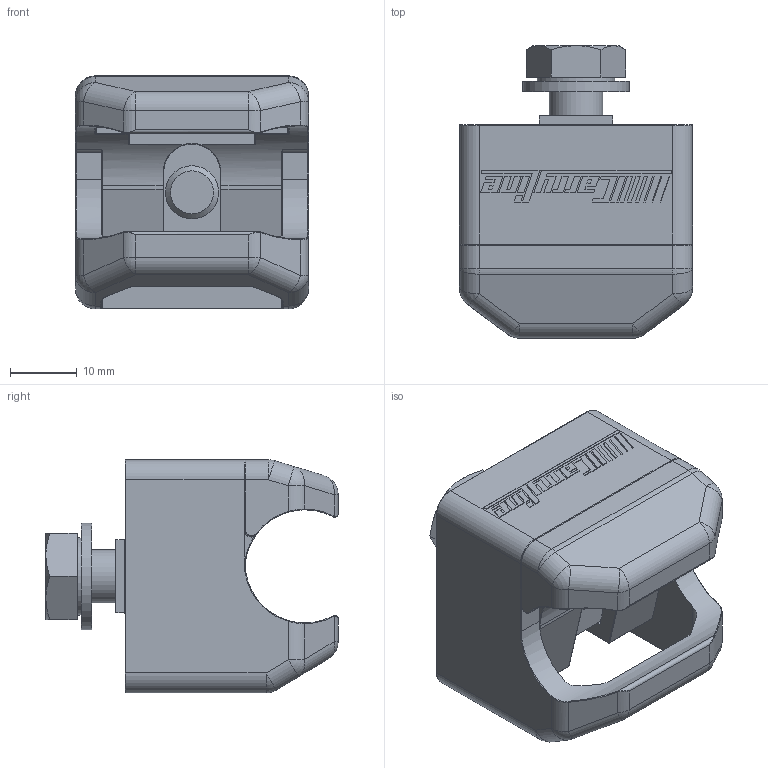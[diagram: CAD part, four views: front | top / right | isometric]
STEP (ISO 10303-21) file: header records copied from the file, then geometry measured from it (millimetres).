
FILE_DESCRIPTION(/* description */ ('GUIDE RAIL SUPPORT 35x35'),/* implementation_level */ '2;1');
FILE_NAME(/* name */ '500-6120.stp',/* time_stamp */ '2022-09-16T11:05:00+02:00',/* author */ ('MD'),/* organization */ ('CARRYLINE'),/* preprocessor_version */ 'ST-DEVELOPER v19.2',/* originating_system */ 'Autodesk Inventor 2023',/* authorisation */ '');
FILE_SCHEMA (('AUTOMOTIVE_DESIGN { 1 0 10303 214 3 1 1 }'));
Length unit declared in the file: millimetre
Products named in the file (6): 500-6120; 300-1000_1; 300-1000_2; 500-4380; 5500-822; 5540-8
Assembly tree (5 placements, depth 2):
  500-6120
    300-1000_1
    300-1000_2
    500-4380
    5500-822
    5540-8
Bounding box: 35 x 43.9 x 35.1 mm (x, y, z)
Volume: 22122.3 mm3; surface area: 14667.2 mm2
Topology: 5 solids, 5 shells, 485 faces, 1157 edges, 656 vertices
Faces by surface type: plane 207, cylinder 148, bspline 46, sphere 40, torus 37, cone 7
Full cylindrical faces by diameter (mm): 6.647 x1, 8 x1, 8.4 x1, 9 x1, 11.63 x1, 16 x1
Entity records: 14938 total; most frequent: CARTESIAN_POINT 3805, DIRECTION 2334, ORIENTED_EDGE 2226, EDGE_CURVE 1113, AXIS2_PLACEMENT_3D 837, LINE 660, VECTOR 660, VERTEX_POINT 656
